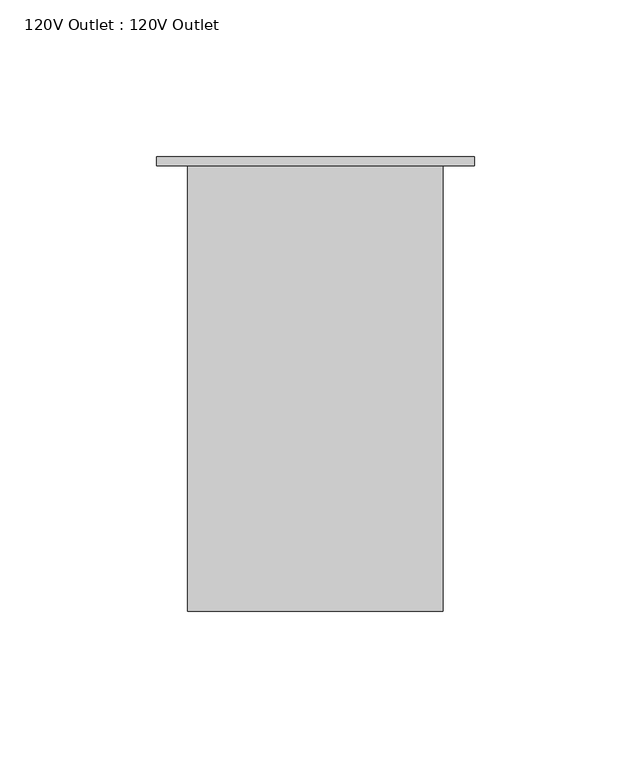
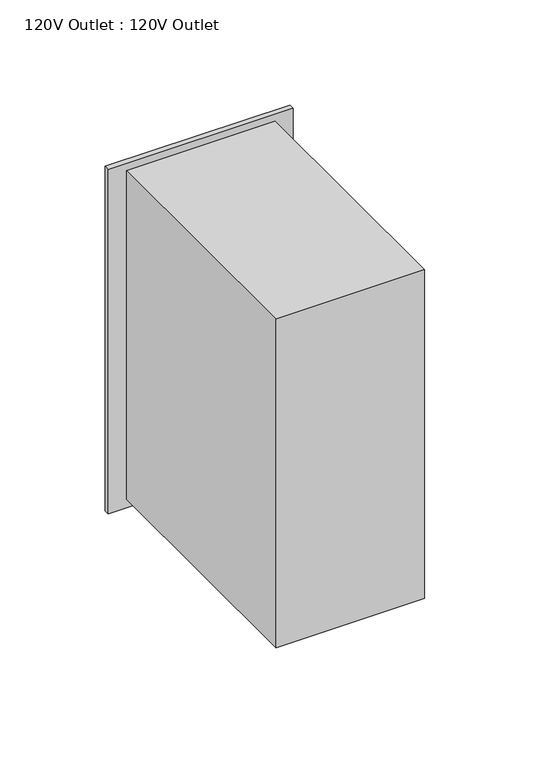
"""IFC4 building model written with IfcOpenShell, lengths in millimetres: proxy geometry, 120V Outlet : 120V Outlet."""

from ifc_helpers import new_model, si_unit, point, frame, frame_2d, origin, place, context, project, spatial, polyline, circle_curve, trimmed, segment, composite_curve, outline, extrude, source, transform, mapped, element, save


def proxy_120v_outlet_120v_outlet_3833eafb(model_context):
    return source(origin(), model_context, "Body", "SweptSolid", [
        extrude(outline(polyline([(40.8, 31.3420404), (-40.8, 31.3420404), (-40.8, 173.6), (40.8, 173.6), (40.8, 31.3420404)])), frame((0.0, 0.0, 1887.0755609), z_axis=(0.0, 0.0, 1.0), x_axis=(1.0, 0.0, 0.0)), (0.0, 0.0, 1.0), 190.9390479),
        extrude(outline(polyline([(2082.0755609, -50.8), (1882.0755609, -50.8), (1882.0755609, 50.8), (2082.0755609, 50.8), (2082.0755609, -50.8)]), holes=[polyline([(2036.2177863, 19.9845665), (2036.2177863, 24.9845665), (2016.2177863, 24.9845665), (2016.2177863, 19.9845665), (2036.2177863, 19.9845665)]), polyline([(2036.2177863, -22.7879151), (2036.2177863, -17.6387853), (2016.2177863, -17.6387853), (2016.2177863, -22.7879151), (2036.2177863, -22.7879151)]), composite_curve([segment(trimmed(circle_curve(frame_2d((2059.9609957, 0.0)), 6.8655063), [point((2059.9609957, 6.8655063))], [point((2059.9609957, -6.8655063))], True, "CARTESIAN"), True, "CONTINUOUS"), segment(trimmed(circle_curve(frame_2d((2059.9609957, 0.0)), 6.8655063), [point((2059.9609957, -6.8655063))], [point((2059.9609957, 6.8655063))], True, "CARTESIAN"), True, "CONTINUOUS")], self_intersect=False), polyline([(1936.2177863, 19.9845665), (1936.2177863, 24.9845665), (1916.2177863, 24.9845665), (1916.2177863, 19.9845665), (1936.2177863, 19.9845665)]), polyline([(1936.2177863, -22.7879151), (1936.2177863, -17.6387853), (1916.2177863, -17.6387853), (1916.2177863, -22.7879151), (1936.2177863, -22.7879151)]), composite_curve([segment(trimmed(circle_curve(frame_2d((1959.9609957, 0.0)), 6.8655063), [point((1959.9609957, 6.8655063))], [point((1959.9609957, -6.8655063))], True, "CARTESIAN"), True, "CONTINUOUS"), segment(trimmed(circle_curve(frame_2d((1959.9609957, 0.0)), 6.8655063), [point((1959.9609957, -6.8655063))], [point((1959.9609957, 6.8655063))], True, "CARTESIAN"), True, "CONTINUOUS")], self_intersect=False)]), frame((0.0, 173.6, 0.0), z_axis=(0.0, 1.0, 0.0), x_axis=(0.0, 0.0, 1.0)), (0.0, 0.0, 1.0), 3.0),
    ])


if __name__ == "__main__":
    model = new_model("IFC4")
    model_context = context("Model", 3, world=origin())
    ifc_project = project(units=[si_unit("LENGTHUNIT", "METRE", prefix="MILLI")], contexts=[model_context])
    site = spatial("IfcSite", under=ifc_project)
    building = spatial("IfcBuilding", under=site)
    placement = place(None, origin())
    proxy_120v_outlet_120v_outlet_shape = proxy_120v_outlet_120v_outlet_3833eafb(model_context)
    element("IfcBuildingElementProxy", 1, Name="120V Outlet : 120V Outlet", ObjectType="120V Outlet : 120V Outlet", at=placement, inside=building, context=model_context, shape_type="MappedRepresentation", body=[
        mapped(proxy_120v_outlet_120v_outlet_shape, transform((0.0, 0.0, 0.0), x_axis=(1.0, 0.0, 0.0), y_axis=(0.0, 1.0, 0.0), z_axis=(0.0, 0.0, 1.0))),
    ])
    save(model, "model.ifc")
